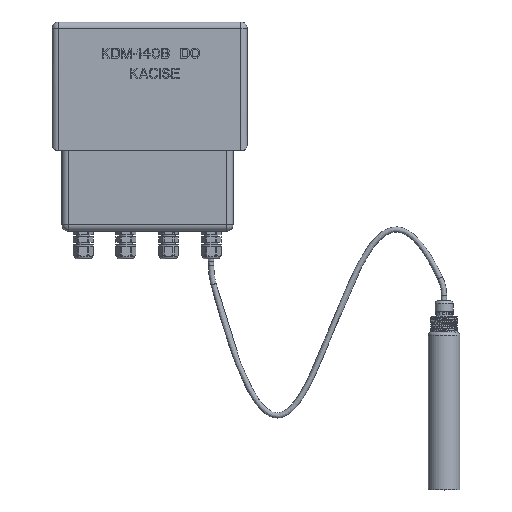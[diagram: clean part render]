
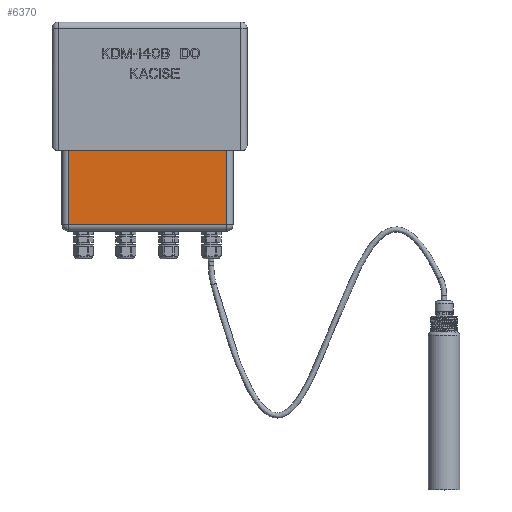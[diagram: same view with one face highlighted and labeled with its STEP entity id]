
A CAD part, top view. The second image highlights one B-rep face of the part: STEP entity #6370.
In plain terms, the highlighted planar face has unit normal (0, 0, 1).
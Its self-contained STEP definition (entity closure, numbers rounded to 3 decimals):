
#83=DIRECTION('',(0.,1.,0.));
#84=VECTOR('',#83,70.362);
#85=CARTESIAN_POINT('',(-81.74,-70.362,65.));
#86=LINE('',#85,#84);
#87=DIRECTION('',(-1.,0.,0.));
#88=VECTOR('',#87,150.637);
#89=CARTESIAN_POINT('',(68.898,0.,65.));
#90=LINE('',#89,#88);
#91=DIRECTION('',(0.,-1.,0.));
#92=VECTOR('',#91,70.362);
#93=CARTESIAN_POINT('',(68.898,0.,65.));
#94=LINE('',#93,#92);
#95=DIRECTION('',(-1.,0.,0.));
#96=VECTOR('',#95,150.637);
#97=CARTESIAN_POINT('',(68.898,-70.362,65.));
#98=LINE('',#97,#96);
#4777=CARTESIAN_POINT('',(-81.74,-70.362,65.));
#4778=CARTESIAN_POINT('',(-81.74,0.,65.));
#4779=VERTEX_POINT('',#4777);
#4780=VERTEX_POINT('',#4778);
#4789=CARTESIAN_POINT('',(68.898,-70.362,65.));
#4790=VERTEX_POINT('',#4789);
#4795=CARTESIAN_POINT('',(68.898,0.,65.));
#4796=VERTEX_POINT('',#4795);
#6356=CARTESIAN_POINT('',(0.,0.,65.));
#6357=DIRECTION('',(0.,0.,1.));
#6358=DIRECTION('',(1.,0.,0.));
#6359=AXIS2_PLACEMENT_3D('',#6356,#6357,#6358);
#6360=PLANE('',#6359);
#6361=ORIENTED_EDGE('',*,*,#6346,.T.);
#6363=ORIENTED_EDGE('',*,*,#6362,.F.);
#6365=ORIENTED_EDGE('',*,*,#6364,.T.);
#6367=ORIENTED_EDGE('',*,*,#6366,.T.);
#6368=EDGE_LOOP('',(#6361,#6363,#6365,#6367));
#6369=FACE_OUTER_BOUND('',#6368,.F.);
#6370=ADVANCED_FACE('',(#6369),#6360,.T.);
#6346=EDGE_CURVE('',#4779,#4780,#86,.T.);
#6362=EDGE_CURVE('',#4796,#4780,#90,.T.);
#6364=EDGE_CURVE('',#4796,#4790,#94,.T.);
#6366=EDGE_CURVE('',#4790,#4779,#98,.T.);
